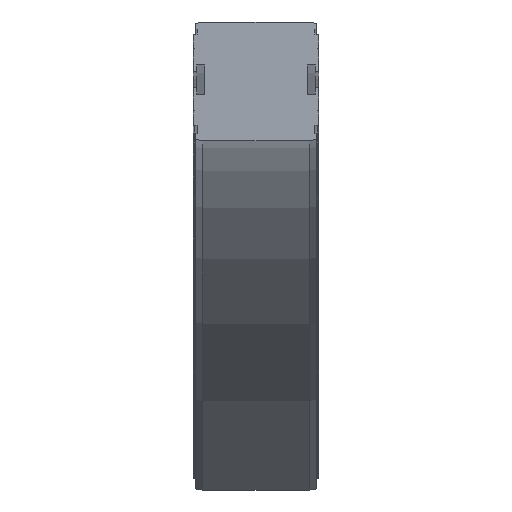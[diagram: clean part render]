
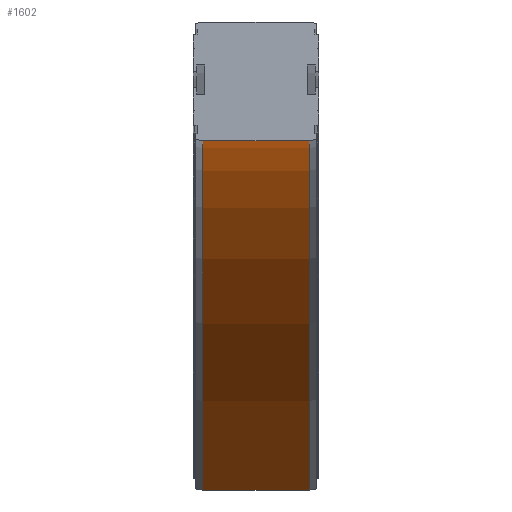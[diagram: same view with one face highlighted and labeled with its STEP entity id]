
A CAD part, left-side view. The second image highlights one B-rep face of the part: STEP entity #1602.
In plain terms, the highlighted cylindrical face has radius 818 mm (diameter 1636 mm), a partial arc.
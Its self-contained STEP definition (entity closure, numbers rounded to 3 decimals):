
#1561=CARTESIAN_POINT('',(0.,-18.25,-899.5));
#1562=DIRECTION('',(0.0,1.0,0.0));
#1563=DIRECTION('',(0.0,0.0,1.0));
#1564=AXIS2_PLACEMENT_3D('',#1561,#1562,#1563);
#1565=CYLINDRICAL_SURFACE('',#1564,818.);
#1566=CARTESIAN_POINT('',(578.413,36.5,-321.087));
#1567=VERTEX_POINT('',#1566);
#1568=CARTESIAN_POINT('',(578.413,-36.5,-321.087));
#1569=VERTEX_POINT('',#1568);
#1570=CARTESIAN_POINT('',(578.413,36.5,-321.087));
#1571=DIRECTION('',(0.0,-1.0,0.0));
#1572=VECTOR('',#1571,73.0);
#1573=LINE('',#1570,#1572);
#1574=EDGE_CURVE('',#1567,#1569,#1573,.T.);
#1575=ORIENTED_EDGE('',*,*,#1574,.T.);
#1576=CARTESIAN_POINT('',(0.0,-36.5,-81.5));
#1577=VERTEX_POINT('',#1576);
#1578=CARTESIAN_POINT('',(0.,-36.5,-899.5));
#1579=DIRECTION('',(0.0,1.0,0.0));
#1580=DIRECTION('',(0.0,0.0,1.0));
#1581=AXIS2_PLACEMENT_3D('',#1578,#1579,#1580);
#1582=CIRCLE('',#1581,818.);
#1583=EDGE_CURVE('',#1577,#1569,#1582,.T.);
#1584=ORIENTED_EDGE('',*,*,#1583,.F.);
#1585=CARTESIAN_POINT('',(0.0,36.5,-81.5));
#1586=VERTEX_POINT('',#1585);
#1587=CARTESIAN_POINT('',(0.0,-36.5,-81.5));
#1588=DIRECTION('',(0.0,1.0,0.0));
#1589=VECTOR('',#1588,73.0);
#1590=LINE('',#1587,#1589);
#1591=EDGE_CURVE('',#1577,#1586,#1590,.T.);
#1592=ORIENTED_EDGE('',*,*,#1591,.T.);
#1593=CARTESIAN_POINT('',(0.,36.5,-899.5));
#1594=DIRECTION('',(0.0,1.0,0.0));
#1595=DIRECTION('',(0.0,0.0,1.0));
#1596=AXIS2_PLACEMENT_3D('',#1593,#1594,#1595);
#1597=CIRCLE('',#1596,818.);
#1598=EDGE_CURVE('',#1586,#1567,#1597,.T.);
#1599=ORIENTED_EDGE('',*,*,#1598,.T.);
#1600=EDGE_LOOP('',(#1575,#1584,#1592,#1599));
#1601=FACE_OUTER_BOUND('',#1600,.T.);
#1602=ADVANCED_FACE('',(#1601),#1565,.F.);
